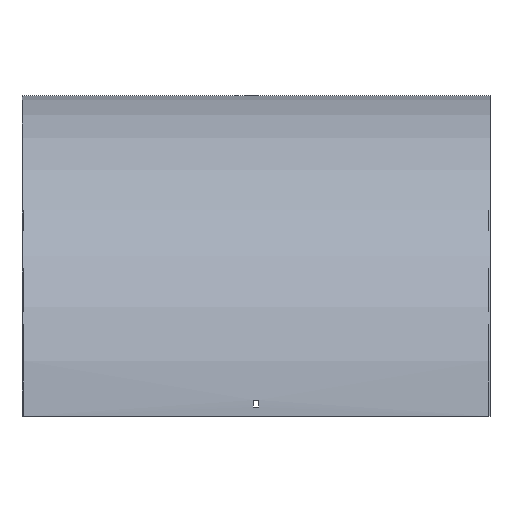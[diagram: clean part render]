
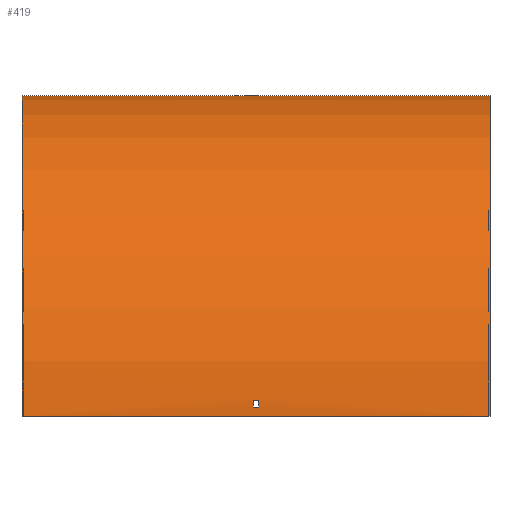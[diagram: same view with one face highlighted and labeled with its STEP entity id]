
A CAD part, top view. The second image highlights one B-rep face of the part: STEP entity #419.
In plain terms, the highlighted cylindrical face has radius 414 mm (diameter 828 mm), a partial arc.
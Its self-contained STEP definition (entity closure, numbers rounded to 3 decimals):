
#1 = CARTESIAN_POINT ( 'NONE',  ( -3.25, -414., 0. ) ) ;
#3 = EDGE_CURVE ( 'NONE', #516, #262, #340, .T. ) ;
#9 = AXIS2_PLACEMENT_3D ( 'NONE', #192, #557, #290 ) ;
#14 = ORIENTED_EDGE ( 'NONE', *, *, #568, .F. ) ;
#21 = DIRECTION ( 'NONE',  ( -1., 0., 0. ) ) ;
#22 = AXIS2_PLACEMENT_3D ( 'NONE', #269, #21, #60 ) ;
#29 = DIRECTION ( 'NONE',  ( 1., 0., 0. ) ) ;
#32 = AXIS2_PLACEMENT_3D ( 'NONE', #436, #263, #216 ) ;
#36 = DIRECTION ( 'NONE',  ( 0., 0., -1. ) ) ;
#42 = DIRECTION ( 'NONE',  ( -1., 0., 0. ) ) ;
#44 = DIRECTION ( 'NONE',  ( -1., 0., 0. ) ) ;
#53 = CIRCLE ( 'NONE', #138, 414. ) ;
#60 = DIRECTION ( 'NONE',  ( 0., 0., 1. ) ) ;
#66 = VERTEX_POINT ( 'NONE', #273 ) ;
#70 = DIRECTION ( 'NONE',  ( 0., 0., -1. ) ) ;
#71 = EDGE_CURVE ( 'NONE', #388, #199, #196, .T. ) ;
#76 = VECTOR ( 'NONE', #540, 1000. ) ;
#79 = CARTESIAN_POINT ( 'NONE',  ( 301.5, -0.533, 21. ) ) ;
#80 = LINE ( 'NONE', #79, #581 ) ;
#83 = CIRCLE ( 'NONE', #227, 414. ) ;
#87 = CARTESIAN_POINT ( 'NONE',  ( -3.25, -402., 413.826 ) ) ;
#92 = DIRECTION ( 'NONE',  ( -1., 0., 0. ) ) ;
#93 = EDGE_CURVE ( 'NONE', #519, #444, #508, .T. ) ;
#94 = AXIS2_PLACEMENT_3D ( 'NONE', #490, #536, #70 ) ;
#96 = CARTESIAN_POINT ( 'NONE',  ( -3.25, -0.174, 12. ) ) ;
#101 = EDGE_CURVE ( 'NONE', #262, #199, #190, .T. ) ;
#103 = DIRECTION ( 'NONE',  ( 1., 0., 0. ) ) ;
#114 = VECTOR ( 'NONE', #103, 1000. ) ;
#115 = VERTEX_POINT ( 'NONE', #325 ) ;
#125 = FACE_OUTER_BOUND ( 'NONE', #583, .T. ) ;
#127 = ORIENTED_EDGE ( 'NONE', *, *, #93, .F. ) ;
#130 = ORIENTED_EDGE ( 'NONE', *, *, #71, .T. ) ;
#131 = CARTESIAN_POINT ( 'NONE',  ( 3.25, -0.533, 21. ) ) ;
#138 = AXIS2_PLACEMENT_3D ( 'NONE', #294, #517, #428 ) ;
#159 = ORIENTED_EDGE ( 'NONE', *, *, #224, .F. ) ;
#163 = VERTEX_POINT ( 'NONE', #247 ) ;
#165 = CARTESIAN_POINT ( 'NONE',  ( 3.25, -402., 413.826 ) ) ;
#177 = CARTESIAN_POINT ( 'NONE',  ( 301.5, -393., 413.467 ) ) ;
#190 = LINE ( 'NONE', #558, #392 ) ;
#192 = CARTESIAN_POINT ( 'NONE',  ( 3.25, -414., 0. ) ) ;
#196 = CIRCLE ( 'NONE', #476, 414. ) ;
#199 = VERTEX_POINT ( 'NONE', #381 ) ;
#212 = CARTESIAN_POINT ( 'NONE',  ( -3.25, -393., 413.467 ) ) ;
#216 = DIRECTION ( 'NONE',  ( 0., 0., -1. ) ) ;
#218 = ORIENTED_EDGE ( 'NONE', *, *, #260, .F. ) ;
#219 = FACE_BOUND ( 'NONE', #242, .T. ) ;
#223 = LINE ( 'NONE', #505, #76 ) ;
#224 = EDGE_CURVE ( 'NONE', #444, #115, #390, .T. ) ;
#227 = AXIS2_PLACEMENT_3D ( 'NONE', #1, #92, #287 ) ;
#242 = EDGE_LOOP ( 'NONE', ( #253, #543, #320, #410 ) ) ;
#247 = CARTESIAN_POINT ( 'NONE',  ( 3.25, -0.174, 12. ) ) ;
#253 = ORIENTED_EDGE ( 'NONE', *, *, #542, .T. ) ;
#257 = VERTEX_POINT ( 'NONE', #96 ) ;
#260 = EDGE_CURVE ( 'NONE', #438, #519, #53, .T. ) ;
#262 = VERTEX_POINT ( 'NONE', #471 ) ;
#263 = DIRECTION ( 'NONE',  ( 1., 0., 0. ) ) ;
#267 = VECTOR ( 'NONE', #416, 1000. ) ;
#269 = CARTESIAN_POINT ( 'NONE',  ( 301.5, -414., 0. ) ) ;
#273 = CARTESIAN_POINT ( 'NONE',  ( -3.25, -0.533, 21. ) ) ;
#274 = LINE ( 'NONE', #461, #499 ) ;
#287 = DIRECTION ( 'NONE',  ( 0., 0., 1. ) ) ;
#290 = DIRECTION ( 'NONE',  ( 0., 0., 1. ) ) ;
#291 = EDGE_CURVE ( 'NONE', #66, #257, #83, .T. ) ;
#294 = CARTESIAN_POINT ( 'NONE',  ( -3.25, -414., 0. ) ) ;
#320 = ORIENTED_EDGE ( 'NONE', *, *, #599, .T. ) ;
#325 = CARTESIAN_POINT ( 'NONE',  ( 3.25, -393., 413.467 ) ) ;
#340 = CIRCLE ( 'NONE', #94, 414. ) ;
#378 = CARTESIAN_POINT ( 'NONE',  ( 301.5, -402., 413.826 ) ) ;
#381 = CARTESIAN_POINT ( 'NONE',  ( -301.5, -414., 414. ) ) ;
#383 = CIRCLE ( 'NONE', #32, 414. ) ;
#388 = VERTEX_POINT ( 'NONE', #559 ) ;
#390 = CIRCLE ( 'NONE', #9, 414. ) ;
#392 = VECTOR ( 'NONE', #44, 1000. ) ;
#398 = EDGE_LOOP ( 'NONE', ( #218, #14, #159, #127 ) ) ;
#402 = ORIENTED_EDGE ( 'NONE', *, *, #3, .F. ) ;
#410 = ORIENTED_EDGE ( 'NONE', *, *, #434, .T. ) ;
#416 = DIRECTION ( 'NONE',  ( -1., 0., 0. ) ) ;
#419 = ADVANCED_FACE ( 'NONE', ( #125, #219, #526 ), #485, .T. ) ;
#428 = DIRECTION ( 'NONE',  ( 0., 1., 0. ) ) ;
#434 = EDGE_CURVE ( 'NONE', #163, #586, #383, .T. ) ;
#436 = CARTESIAN_POINT ( 'NONE',  ( 3.25, -414., 0. ) ) ;
#438 = VERTEX_POINT ( 'NONE', #212 ) ;
#440 = ORIENTED_EDGE ( 'NONE', *, *, #537, .T. ) ;
#444 = VERTEX_POINT ( 'NONE', #165 ) ;
#453 = CARTESIAN_POINT ( 'NONE',  ( -301.5, -414., 0. ) ) ;
#455 = DIRECTION ( 'NONE',  ( 1., 0., 0. ) ) ;
#458 = LINE ( 'NONE', #177, #267 ) ;
#461 = CARTESIAN_POINT ( 'NONE',  ( 301.5, -0.174, 12. ) ) ;
#471 = CARTESIAN_POINT ( 'NONE',  ( 301.5, -414., 414. ) ) ;
#476 = AXIS2_PLACEMENT_3D ( 'NONE', #453, #29, #36 ) ;
#485 = CYLINDRICAL_SURFACE ( 'NONE', #22, 414. ) ;
#488 = ORIENTED_EDGE ( 'NONE', *, *, #101, .F. ) ;
#490 = CARTESIAN_POINT ( 'NONE',  ( 301.5, -414., 0. ) ) ;
#499 = VECTOR ( 'NONE', #455, 1000. ) ;
#500 = CARTESIAN_POINT ( 'NONE',  ( 301.5, 0., 0. ) ) ;
#505 = CARTESIAN_POINT ( 'NONE',  ( 301.5, 0., 0. ) ) ;
#508 = LINE ( 'NONE', #378, #114 ) ;
#516 = VERTEX_POINT ( 'NONE', #500 ) ;
#517 = DIRECTION ( 'NONE',  ( 1., 0., 0. ) ) ;
#519 = VERTEX_POINT ( 'NONE', #87 ) ;
#526 = FACE_BOUND ( 'NONE', #398, .T. ) ;
#536 = DIRECTION ( 'NONE',  ( 1., 0., 0. ) ) ;
#537 = EDGE_CURVE ( 'NONE', #516, #388, #223, .T. ) ;
#540 = DIRECTION ( 'NONE',  ( -1., 0., 0. ) ) ;
#542 = EDGE_CURVE ( 'NONE', #586, #66, #80, .T. ) ;
#543 = ORIENTED_EDGE ( 'NONE', *, *, #291, .T. ) ;
#557 = DIRECTION ( 'NONE',  ( -1., 0., 0. ) ) ;
#558 = CARTESIAN_POINT ( 'NONE',  ( 301.5, -414., 414. ) ) ;
#559 = CARTESIAN_POINT ( 'NONE',  ( -301.5, 0., 0. ) ) ;
#568 = EDGE_CURVE ( 'NONE', #115, #438, #458, .T. ) ;
#581 = VECTOR ( 'NONE', #42, 1000. ) ;
#583 = EDGE_LOOP ( 'NONE', ( #130, #488, #402, #440 ) ) ;
#586 = VERTEX_POINT ( 'NONE', #131 ) ;
#599 = EDGE_CURVE ( 'NONE', #257, #163, #274, .T. ) ;
